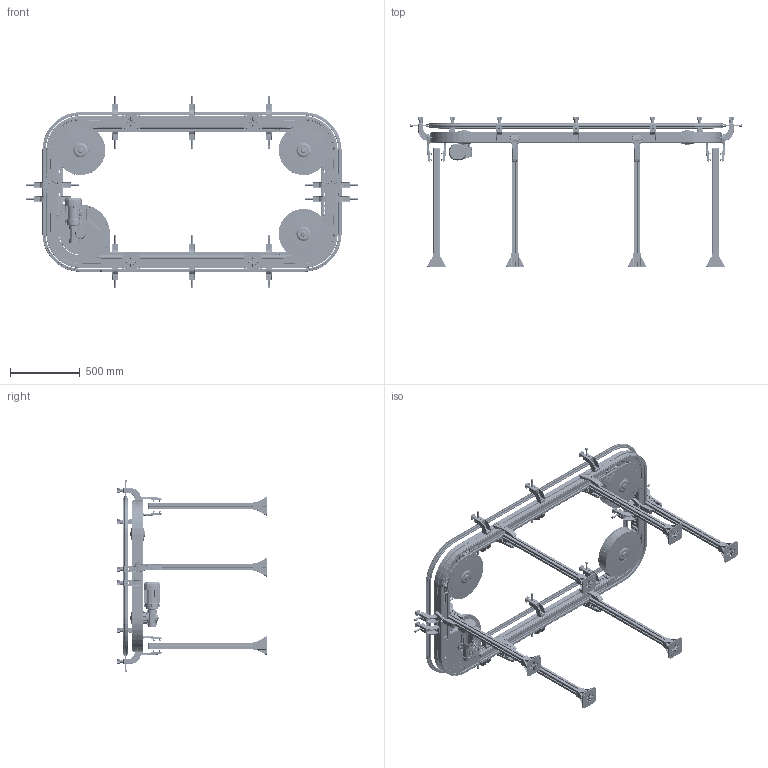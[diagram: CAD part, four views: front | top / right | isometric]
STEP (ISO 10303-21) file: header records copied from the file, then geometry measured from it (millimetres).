
FILE_DESCRIPTION (( 'STEP AP203' ), '1' );
FILE_NAME ('NASTRO_2010.step', '2026-04-28T15:32:49', ( 'Utente Windows' ), ( '' ), 'SwSTEP 2.0', 'SolidWorks 2024', '' );
FILE_SCHEMA (( 'CONFIG_CONTROL_DESIGN' ));
Length unit declared in the file: millimetre
Products named in the file (88): SEMICOLLARE A3 25 C; 05UNI7473-A2; CATENA_ANELLO; 2010.000.036; BO050F; 0410UNI7380-A2; 2010.000.056; COLLARE A3 25 C; 084.302.000 DADI ALUSIC 13x13-1_084.302.009; 2010.000.068_L; 0660UNI5737-A2; 2010.000.078; 2010.000.054; 2010.325.P.590_DX; K325_3_Default<A macchina>; 084.301.000 VITI ALUSIC_084.301.003; 2010.000.063; K325_1_Default<A macchina>; 0625UNI5737-A2; 2010.000.069; 084.307.006; 084.301.000 VITI ALUSIC1_084.301.003; 2010.000.035; 2010.000.020_Default<A macchina>; 0612UNI5933-A2; 2010.000.087_Default<A macchina>; 0825UNI5739-A2; GAMBE_KP325_Default<A macchina>; K325_4_a<A macchina>; 084.301.000 VITI ALUSIC_084.301.029; INSERTO FILETTATO M6_INSERTI M6 SPESSORE 2mm; 06UNI6592-A2; VITI TE UNI 5739_M8x20 UNI 5739; 084.201.012-1; K325_2_Default<A macchina>; 2000.879.325B; CHIAVETTE_A 8x7x60 UNI 6604-69; 1025UNI5933-A2; 1025UNI5739-A2; 084.712.002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
Assembly tree (288 placements, depth 4):
  NASTRO_2010
    K325_1_Default<A macchina>
    K325_2_Default<A macchina>
    K325_3_Default<A macchina>
    K325_4_a<A macchina>
    2010.325.P.6B49.90
      084.307.006  x2
        084.307.006
        0814UNI5923-A2
      2010.000.063
      084.301.000 VITI ALUSIC_084.301.029  x4
      800.100.014 - CURVA ESTERNA 90_Default<A macchina>
      2010.000.078
      084.302.016  x2
      08UNI6592-A2  x8
      2010.000.079
      1040UNI6593-A2
      1025UNI5739-A2
      0410UNI7380-A2  x4
      084.305.024  x2
      0612UNI5933-A2  x6
      2010.000.106  x2
      2010.000.105
      0408UNI5933-A2  x4
      1030UNI5739-A2  x4
      08UNI7473-A2  x4
      0825UNI5739-A2  x4
      2010.000.082  x2
      0520UNI7380-A2  x4
      0516UNI7380-A2  x2
      05UNI7473-A2  x6
      2010.000.111
      32005X-Q
      CHIAVETTE_A 8x7x60 UNI 6604-69
      2010.000.107
      BO050F
      2010.000.100
      1025UNI5933-A2
      INSERTO FILETTATO M6_INSERTI M6 SPESSORE 2mm  x6
    2010.325.P.590_DX  x3
      2010.000.063
      JFM-2528-12
      2010.000.020_Default<A macchina>
      2010.000.040
      084.307.006
        084.307.006
        0814UNI5923-A2  x4
      2010.000.054
      2010.000.053
      2010.000.086_Default<A macchina>
      0412UNI5931-A2
      2010.000.087_Default<A macchina>
      0660UNI5737-A2
      06UNI6592-A2
      06UNI7473-A2
      0812UNI5739-A2
      08UNI6592-A2
      COLLARE A3 25 C
        SEMICOLLARE A3 25 C  x2
      2010.000.035
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Bounding box: 2381.12 x 1079.6 x 1381.12 mm (x, y, z)
Volume: 37035826.1 mm3; surface area: 17124224.7 mm2
Topology: 828 solids, 828 shells, 38383 faces, 96520 edges, 60682 vertices
Faces by surface type: plane 14060, cylinder 10045, bspline 5785, cone 5723, torus 2592, sphere 178
Entity records: 309723 total; most frequent: CARTESIAN_POINT 112401, ORIENTED_EDGE 39510, DIRECTION 36462, EDGE_CURVE 19755, AXIS2_PLACEMENT_3D 13506, VERTEX_POINT 12409, LINE 9450, VECTOR 9450
